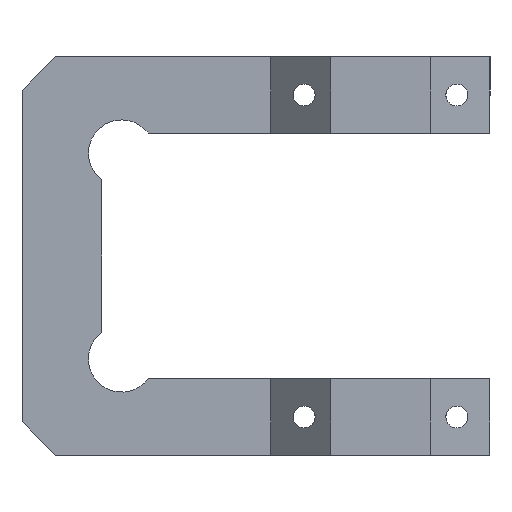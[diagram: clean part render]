
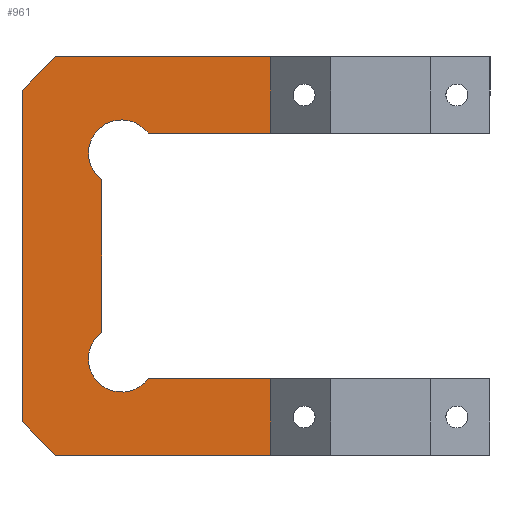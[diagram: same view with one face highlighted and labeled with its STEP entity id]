
A CAD part, front view. The second image highlights one B-rep face of the part: STEP entity #961.
In plain terms, the highlighted planar face has unit normal (0, -1, 0).
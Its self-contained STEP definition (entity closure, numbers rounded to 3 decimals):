
#142 = ORIENTED_EDGE ( 'NONE', *, *, #1676, .T. ) ;
#145 = ORIENTED_EDGE ( 'NONE', *, *, #1754, .T. ) ;
#146 = ORIENTED_EDGE ( 'NONE', *, *, #1700, .F. ) ;
#147 = ORIENTED_EDGE ( 'NONE', *, *, #1749, .T. ) ;
#148 = ORIENTED_EDGE ( 'NONE', *, *, #1748, .F. ) ;
#150 = ORIENTED_EDGE ( 'NONE', *, *, #1695, .F. ) ;
#157 = ORIENTED_EDGE ( 'NONE', *, *, #1667, .T. ) ;
#175 = ORIENTED_EDGE ( 'NONE', *, *, #1747, .T. ) ;
#176 = ORIENTED_EDGE ( 'NONE', *, *, #1745, .F. ) ;
#181 = ORIENTED_EDGE ( 'NONE', *, *, #1744, .T. ) ;
#182 = ORIENTED_EDGE ( 'NONE', *, *, #1694, .T. ) ;
#183 = ORIENTED_EDGE ( 'NONE', *, *, #1743, .F. ) ;
#184 = ORIENTED_EDGE ( 'NONE', *, *, #1739, .T. ) ;
#189 = ORIENTED_EDGE ( 'NONE', *, *, #1742, .T. ) ;
#190 = ORIENTED_EDGE ( 'NONE', *, *, #1741, .F. ) ;
#194 = ORIENTED_EDGE ( 'NONE', *, *, #1666, .T. ) ;
#195 = ORIENTED_EDGE ( 'NONE', *, *, #1738, .T. ) ;
#533 = VECTOR ( 'NONE', #794, 1000. ) ;
#541 = VECTOR ( 'NONE', #786, 1000. ) ;
#543 = LINE ( 'NONE', #802, #533 ) ;
#546 = LINE ( 'NONE', #790, #541 ) ;
#547 = CIRCLE ( 'NONE', #1401, 2.25 ) ;
#660 = CARTESIAN_POINT ( 'NONE',  ( 10.261, 0., 30. ) ) ;
#662 = CARTESIAN_POINT ( 'NONE',  ( -35.25, 0., 25. ) ) ;
#665 = CARTESIAN_POINT ( 'NONE',  ( -20.25, 0., 20.5 ) ) ;
#715 = CIRCLE ( 'NONE', #1408, 5. ) ;
#721 = VECTOR ( 'NONE', #1562, 1000. ) ;
#722 = LINE ( 'NONE', #1568, #721 ) ;
#727 = CIRCLE ( 'NONE', #1411, 2.25 ) ;
#744 = CARTESIAN_POINT ( 'NONE',  ( -20.25, 0., 15.5 ) ) ;
#745 = DIRECTION ( 'NONE',  ( 0., 1., 0. ) ) ;
#746 = DIRECTION ( 'NONE',  ( 0., 0., 1. ) ) ;
#786 = DIRECTION ( 'NONE',  ( 0., 0., 1. ) ) ;
#790 = CARTESIAN_POINT ( 'NONE',  ( -35.25, 0., -30. ) ) ;
#791 = CARTESIAN_POINT ( 'NONE',  ( 7.25, 0., -24.25 ) ) ;
#792 = DIRECTION ( 'NONE',  ( 0., 1., 0. ) ) ;
#793 = DIRECTION ( 'NONE',  ( 0., 0., 1. ) ) ;
#794 = DIRECTION ( 'NONE',  ( 1., 0., 0. ) ) ;
#802 = CARTESIAN_POINT ( 'NONE',  ( -35.25, 0., 30. ) ) ;
#961 = ADVANCED_FACE ( 'NONE', ( #1112, #1107, #1109 ), #1640, .F. ) ;
#1107 = FACE_BOUND ( 'NONE', #2177, .T. ) ;
#1109 = FACE_OUTER_BOUND ( 'NONE', #2198, .T. ) ;
#1112 = FACE_BOUND ( 'NONE', #2132, .T. ) ;
#1128 = CARTESIAN_POINT ( 'NONE',  ( 7.25, 0., 24.25 ) ) ;
#1129 = DIRECTION ( 'NONE',  ( 0., 1., 0. ) ) ;
#1130 = DIRECTION ( 'NONE',  ( 0., 0., 1. ) ) ;
#1131 = CARTESIAN_POINT ( 'NONE',  ( -35.25, 0., -30. ) ) ;
#1132 = CARTESIAN_POINT ( 'NONE',  ( -23.25, 0., -18.5 ) ) ;
#1133 = CARTESIAN_POINT ( 'NONE',  ( 7.25, 0., -24.25 ) ) ;
#1134 = DIRECTION ( 'NONE',  ( 0., 1., 0. ) ) ;
#1135 = DIRECTION ( 'NONE',  ( 0., 0., 1. ) ) ;
#1136 = DIRECTION ( 'NONE',  ( 0., 0., -1. ) ) ;
#1140 = DIRECTION ( 'NONE',  ( -1., 0., 0. ) ) ;
#1141 = CARTESIAN_POINT ( 'NONE',  ( 10.261, 0., -30. ) ) ;
#1142 = DIRECTION ( 'NONE',  ( 0., 0., 1. ) ) ;
#1143 = CARTESIAN_POINT ( 'NONE',  ( 35.25, 0., -18.5 ) ) ;
#1144 = DIRECTION ( 'NONE',  ( 1., 0., 0. ) ) ;
#1145 = CARTESIAN_POINT ( 'NONE',  ( 35.25, 0., 18.5 ) ) ;
#1146 = DIRECTION ( 'NONE',  ( -1., 0., 0. ) ) ;
#1147 = CARTESIAN_POINT ( 'NONE',  ( -20.25, 0., -15.5 ) ) ;
#1148 = DIRECTION ( 'NONE',  ( 0., 1., 0. ) ) ;
#1149 = DIRECTION ( 'NONE',  ( 0., 0., 1. ) ) ;
#1154 = CARTESIAN_POINT ( 'NONE',  ( -20.25, 0., 15.5 ) ) ;
#1155 = DIRECTION ( 'NONE',  ( 0., 1., 0. ) ) ;
#1156 = DIRECTION ( 'NONE',  ( 0., 0., 1. ) ) ;
#1157 = CARTESIAN_POINT ( 'NONE',  ( 10.261, 0., -30. ) ) ;
#1158 = DIRECTION ( 'NONE',  ( 0., 0., 1. ) ) ;
#1168 = CARTESIAN_POINT ( 'NONE',  ( -30.25, 0., 30. ) ) ;
#1170 = DIRECTION ( 'NONE',  ( -0.707, 0., -0.707 ) ) ;
#1172 = CARTESIAN_POINT ( 'NONE',  ( 7.25, 0., 26.5 ) ) ;
#1182 = CARTESIAN_POINT ( 'NONE',  ( -30.25, 0., 30. ) ) ;
#1191 = CARTESIAN_POINT ( 'NONE',  ( -23.25, 0., -11.5 ) ) ;
#1196 = CARTESIAN_POINT ( 'NONE',  ( -16.25, 0., 18.5 ) ) ;
#1206 = CARTESIAN_POINT ( 'NONE',  ( 7.25, 0., -26.5 ) ) ;
#1210 = CARTESIAN_POINT ( 'NONE',  ( -35.25, 0., -25. ) ) ;
#1219 = CARTESIAN_POINT ( 'NONE',  ( -30.25, 0., -30. ) ) ;
#1224 = CARTESIAN_POINT ( 'NONE',  ( 7.25, 0., 22. ) ) ;
#1230 = CARTESIAN_POINT ( 'NONE',  ( 10.261, 0., -30. ) ) ;
#1231 = CARTESIAN_POINT ( 'NONE',  ( 10.261, 0., 18.5 ) ) ;
#1250 = CARTESIAN_POINT ( 'NONE',  ( -23.25, 0., 11.5 ) ) ;
#1251 = CARTESIAN_POINT ( 'NONE',  ( 10.261, 0., -18.5 ) ) ;
#1256 = CARTESIAN_POINT ( 'NONE',  ( 7.25, 0., -22. ) ) ;
#1274 = CARTESIAN_POINT ( 'NONE',  ( -16.25, 0., -18.5 ) ) ;
#1367 = CIRCLE ( 'NONE', #1580, 5. ) ;
#1368 = VECTOR ( 'NONE', #1136, 1000. ) ;
#1370 = LINE ( 'NONE', #1132, #1368 ) ;
#1371 = VECTOR ( 'NONE', #1144, 1000. ) ;
#1372 = CIRCLE ( 'NONE', #1589, 5. ) ;
#1373 = VECTOR ( 'NONE', #1142, 1000. ) ;
#1374 = LINE ( 'NONE', #1143, #1371 ) ;
#1375 = VECTOR ( 'NONE', #1140, 1000. ) ;
#1376 = LINE ( 'NONE', #1141, #1373 ) ;
#1377 = LINE ( 'NONE', #1131, #1375 ) ;
#1379 = CIRCLE ( 'NONE', #1579, 2.25 ) ;
#1380 = CIRCLE ( 'NONE', #1581, 2.25 ) ;
#1401 = AXIS2_PLACEMENT_3D ( 'NONE', #791, #792, #793 ) ;
#1408 = AXIS2_PLACEMENT_3D ( 'NONE', #744, #745, #746 ) ;
#1411 = AXIS2_PLACEMENT_3D ( 'NONE', #1569, #1570, #1571 ) ;
#1425 = AXIS2_PLACEMENT_3D ( 'NONE', #1642, #1638, #1637 ) ;
#1562 = DIRECTION ( 'NONE',  ( 0.707, 0., -0.707 ) ) ;
#1568 = CARTESIAN_POINT ( 'NONE',  ( -35.25, 0., -25. ) ) ;
#1569 = CARTESIAN_POINT ( 'NONE',  ( 7.25, 0., 24.25 ) ) ;
#1570 = DIRECTION ( 'NONE',  ( 0., 1., 0. ) ) ;
#1571 = DIRECTION ( 'NONE',  ( 0., 0., 1. ) ) ;
#1579 = AXIS2_PLACEMENT_3D ( 'NONE', #1133, #1134, #1135 ) ;
#1580 = AXIS2_PLACEMENT_3D ( 'NONE', #1154, #1155, #1156 ) ;
#1581 = AXIS2_PLACEMENT_3D ( 'NONE', #1128, #1129, #1130 ) ;
#1589 = AXIS2_PLACEMENT_3D ( 'NONE', #1147, #1148, #1149 ) ;
#1637 = DIRECTION ( 'NONE',  ( 0., 0., 1. ) ) ;
#1638 = DIRECTION ( 'NONE',  ( 0., 1., 0. ) ) ;
#1640 = PLANE ( 'NONE',  #1425 ) ;
#1642 = CARTESIAN_POINT ( 'NONE',  ( -35.25, 0., 30. ) ) ;
#1648 = VECTOR ( 'NONE', #1170, 1000. ) ;
#1650 = LINE ( 'NONE', #1168, #1648 ) ;
#1656 = VECTOR ( 'NONE', #1158, 1000. ) ;
#1658 = VECTOR ( 'NONE', #1146, 1000. ) ;
#1659 = LINE ( 'NONE', #1145, #1658 ) ;
#1660 = LINE ( 'NONE', #1157, #1656 ) ;
#1666 = EDGE_CURVE ( 'NONE', #2252, #2039, #727, .T. ) ;
#1667 = EDGE_CURVE ( 'NONE', #2233, #2246, #722, .T. ) ;
#1676 = EDGE_CURVE ( 'NONE', #2344, #2064, #715, .T. ) ;
#1694 = EDGE_CURVE ( 'NONE', #2231, #2296, #547, .T. ) ;
#1695 = EDGE_CURVE ( 'NONE', #2233, #2338, #546, .T. ) ;
#1700 = EDGE_CURVE ( 'NONE', #2050, #2341, #543, .T. ) ;
#1738 = EDGE_CURVE ( 'NONE', #2039, #2252, #1380, .T. ) ;
#1739 = EDGE_CURVE ( 'NONE', #2296, #2231, #1379, .T. ) ;
#1741 = EDGE_CURVE ( 'NONE', #2259, #2246, #1377, .T. ) ;
#1742 = EDGE_CURVE ( 'NONE', #2259, #2289, #1376, .T. ) ;
#1743 = EDGE_CURVE ( 'NONE', #2322, #2289, #1374, .T. ) ;
#1744 = EDGE_CURVE ( 'NONE', #2322, #2059, #1372, .T. ) ;
#1745 = EDGE_CURVE ( 'NONE', #2295, #2059, #1370, .T. ) ;
#1747 = EDGE_CURVE ( 'NONE', #2295, #2344, #1367, .T. ) ;
#1748 = EDGE_CURVE ( 'NONE', #2267, #2064, #1659, .T. ) ;
#1749 = EDGE_CURVE ( 'NONE', #2267, #2341, #1660, .T. ) ;
#1754 = EDGE_CURVE ( 'NONE', #2050, #2338, #1650, .T. ) ;
#2039 = VERTEX_POINT ( 'NONE', #1172 ) ;
#2050 = VERTEX_POINT ( 'NONE', #1182 ) ;
#2059 = VERTEX_POINT ( 'NONE', #1191 ) ;
#2064 = VERTEX_POINT ( 'NONE', #1196 ) ;
#2132 = EDGE_LOOP ( 'NONE', ( #194, #195 ) ) ;
#2177 = EDGE_LOOP ( 'NONE', ( #182, #184 ) ) ;
#2198 = EDGE_LOOP ( 'NONE', ( #190, #189, #183, #181, #176, #175, #142, #148, #147, #146, #145, #150, #157 ) ) ;
#2231 = VERTEX_POINT ( 'NONE', #1206 ) ;
#2233 = VERTEX_POINT ( 'NONE', #1210 ) ;
#2246 = VERTEX_POINT ( 'NONE', #1219 ) ;
#2252 = VERTEX_POINT ( 'NONE', #1224 ) ;
#2259 = VERTEX_POINT ( 'NONE', #1230 ) ;
#2267 = VERTEX_POINT ( 'NONE', #1231 ) ;
#2289 = VERTEX_POINT ( 'NONE', #1251 ) ;
#2295 = VERTEX_POINT ( 'NONE', #1250 ) ;
#2296 = VERTEX_POINT ( 'NONE', #1256 ) ;
#2322 = VERTEX_POINT ( 'NONE', #1274 ) ;
#2338 = VERTEX_POINT ( 'NONE', #662 ) ;
#2341 = VERTEX_POINT ( 'NONE', #660 ) ;
#2344 = VERTEX_POINT ( 'NONE', #665 ) ;
